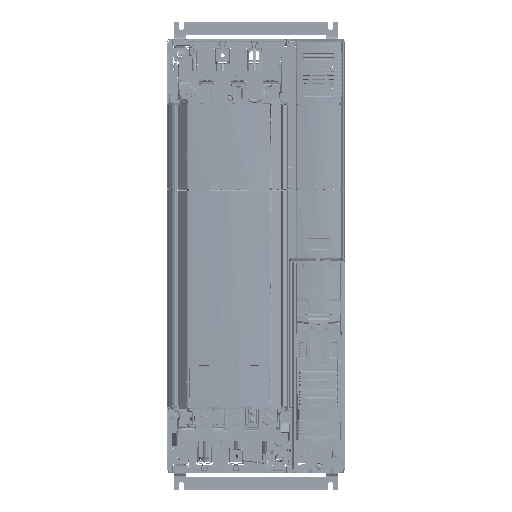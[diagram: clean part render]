
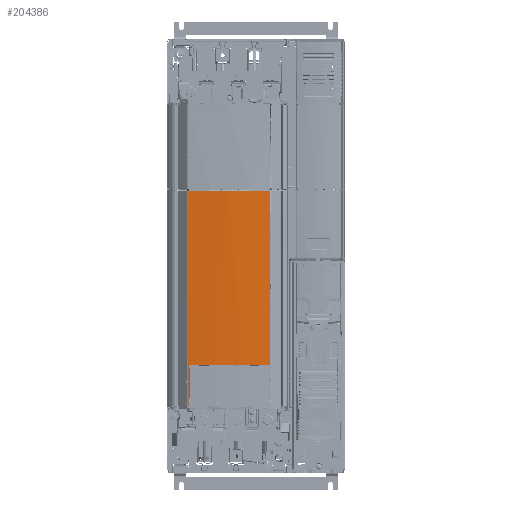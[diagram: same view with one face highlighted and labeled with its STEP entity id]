
A CAD part, top view. The second image highlights one B-rep face of the part: STEP entity #204386.
In plain terms, the highlighted cylindrical face has radius 800 mm (diameter 1600 mm), a partial arc.
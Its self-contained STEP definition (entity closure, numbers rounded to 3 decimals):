
#186227=CARTESIAN_POINT('',(-117.371,228.173,
210.333));
#186228=CARTESIAN_POINT('',(-101.611,228.149,
211.739));
#186229=CARTESIAN_POINT('',(-70.007,228.116,213.617));
#186230=CARTESIAN_POINT('',(-22.503,228.116,
213.617));
#186231=CARTESIAN_POINT('',(9.101,228.149,
211.739));
#186232=CARTESIAN_POINT('',(24.861,228.173,
210.333));
#186234=DIRECTION('',(0.,-1.,0.));
#186235=VECTOR('',#186234,373.338);
#186236=CARTESIAN_POINT('',(24.861,228.173,
210.333));
#186237=LINE('',#186236,#186235);
#186238=CARTESIAN_POINT('',(24.861,-145.165,
210.333));
#186239=CARTESIAN_POINT('',(24.691,-145.165,
210.348));
#186240=CARTESIAN_POINT('',(24.352,-145.164,
210.378));
#186241=CARTESIAN_POINT('',(24.015,-145.163,
210.408));
#186242=CARTESIAN_POINT('',(23.846,-145.163,
210.423));
#186244=DIRECTION('',(0.,1.,0.));
#186245=VECTOR('',#186244,69.374);
#186246=CARTESIAN_POINT('',(23.846,-145.163,
210.423));
#186247=LINE('',#186246,#186245);
#186248=CARTESIAN_POINT('',(23.846,-75.79,
210.423));
#186249=CARTESIAN_POINT('',(23.846,-75.692,
210.423));
#186250=CARTESIAN_POINT('',(23.833,-75.495,
210.424));
#186251=CARTESIAN_POINT('',(23.773,-75.199,
210.429));
#186252=CARTESIAN_POINT('',(23.667,-74.897,
210.438));
#186253=CARTESIAN_POINT('',(23.505,-74.593,
210.453));
#186254=CARTESIAN_POINT('',(23.277,-74.293,
210.473));
#186255=CARTESIAN_POINT('',(22.97,-74.013,
210.499));
#186256=CARTESIAN_POINT('',(22.583,-73.778,
210.533));
#186257=CARTESIAN_POINT('',(22.129,-73.623,
210.572));
#186258=CARTESIAN_POINT('',(21.811,-73.587,
210.599));
#186259=CARTESIAN_POINT('',(21.646,-73.587,
210.613));
#186261=CARTESIAN_POINT('',(-46.255,-73.587,-586.5));
#186262=DIRECTION('',(0.,-1.,0.));
#186263=DIRECTION('',(0.085,0.,0.996));
#186264=AXIS2_PLACEMENT_3D('',#186261,#186262,#186263);
#186266=CARTESIAN_POINT('',(-114.156,-73.587,
210.613));
#186267=CARTESIAN_POINT('',(-114.254,-73.587,
210.605));
#186268=CARTESIAN_POINT('',(-114.45,-73.6,
210.588));
#186269=CARTESIAN_POINT('',(-114.746,-73.66,
210.563));
#186270=CARTESIAN_POINT('',(-115.048,-73.767,
210.537));
#186271=CARTESIAN_POINT('',(-115.352,-73.929,
210.51));
#186272=CARTESIAN_POINT('',(-115.651,-74.157,
210.484));
#186273=CARTESIAN_POINT('',(-115.931,-74.464,
210.46));
#186274=CARTESIAN_POINT('',(-116.166,-74.852,
210.439));
#186275=CARTESIAN_POINT('',(-116.321,-75.306,
210.426));
#186276=CARTESIAN_POINT('',(-116.357,-75.624,
210.423));
#186277=CARTESIAN_POINT('',(-116.357,-75.79,
210.423));
#186279=DIRECTION('',(0.,-1.,0.));
#186280=VECTOR('',#186279,69.374);
#186281=CARTESIAN_POINT('',(-116.357,-75.79,
210.423));
#186282=LINE('',#186281,#186280);
#186283=CARTESIAN_POINT('',(-116.357,-145.164,
210.423));
#186284=CARTESIAN_POINT('',(-116.526,-145.164,
210.408));
#186285=CARTESIAN_POINT('',(-116.864,-145.164,
210.378));
#186286=CARTESIAN_POINT('',(-117.202,-145.165,
210.348));
#186287=CARTESIAN_POINT('',(-117.371,-145.165,
210.333));
#186289=DIRECTION('',(0.,1.,0.));
#186290=VECTOR('',#186289,373.338);
#186291=CARTESIAN_POINT('',(-117.371,-145.165,
210.333));
#186292=LINE('',#186291,#186290);
#201200=CARTESIAN_POINT('',(-116.357,-75.79,
210.423));
#201201=CARTESIAN_POINT('',(-116.357,-145.164,
210.423));
#201202=VERTEX_POINT('',#201200);
#201203=VERTEX_POINT('',#201201);
#201204=VERTEX_POINT('',#186266);
#201205=CARTESIAN_POINT('',(21.646,-73.587,
210.613));
#201206=VERTEX_POINT('',#201205);
#201207=VERTEX_POINT('',#186248);
#201212=CARTESIAN_POINT('',(23.846,-145.163,
210.423));
#201213=VERTEX_POINT('',#201212);
#201219=VERTEX_POINT('',#186238);
#201220=VERTEX_POINT('',#186287);
#201493=VERTEX_POINT('',#186227);
#201494=VERTEX_POINT('',#186232);
#204359=CARTESIAN_POINT('',(-46.255,-249.905,-586.5));
#204360=DIRECTION('',(0.,-1.,0.));
#204361=DIRECTION('',(1.,0.,0.));
#204362=AXIS2_PLACEMENT_3D('',#204359,#204360,#204361);
#204363=CYLINDRICAL_SURFACE('',#204362,800.);
#204365=ORIENTED_EDGE('',*,*,#204364,.T.);
#204367=ORIENTED_EDGE('',*,*,#204366,.T.);
#204369=ORIENTED_EDGE('',*,*,#204368,.T.);
#204371=ORIENTED_EDGE('',*,*,#204370,.T.);
#204373=ORIENTED_EDGE('',*,*,#204372,.T.);
#204375=ORIENTED_EDGE('',*,*,#204374,.T.);
#204377=ORIENTED_EDGE('',*,*,#204376,.T.);
#204379=ORIENTED_EDGE('',*,*,#204378,.T.);
#204381=ORIENTED_EDGE('',*,*,#204380,.T.);
#204383=ORIENTED_EDGE('',*,*,#204382,.T.);
#204384=EDGE_LOOP('',(#204365,#204367,#204369,#204371,#204373,#204375,#204377,
#204379,#204381,#204383));
#204385=FACE_OUTER_BOUND('',#204384,.F.);
#204386=ADVANCED_FACE('',(#204385),#204363,.T.);
#186233=B_SPLINE_CURVE_WITH_KNOTS('',3,(#186227,#186228,#186229,#186230,#186231,
#186232),.UNSPECIFIED.,.F.,.F.,(4,1,1,4),(0.,0.333,
0.667,1.),.UNSPECIFIED.);
#186243=B_SPLINE_CURVE_WITH_KNOTS('',3,(#186238,#186239,#186240,#186241,
#186242),.UNSPECIFIED.,.F.,.F.,(4,1,4),(0.,0.5,1.),.UNSPECIFIED.);
#186260=B_SPLINE_CURVE_WITH_KNOTS('',3,(#186248,#186249,#186250,#186251,#186252,
#186253,#186254,#186255,#186256,#186257,#186258,#186259),.UNSPECIFIED.,.F.,.F.,(
4,1,1,1,1,1,1,1,1,4),(0.,0.111,0.222,
0.333,0.444,0.556,0.667,
0.778,0.889,1.),.UNSPECIFIED.);
#186265=CIRCLE('',#186264,800.);
#186278=B_SPLINE_CURVE_WITH_KNOTS('',3,(#186266,#186267,#186268,#186269,#186270,
#186271,#186272,#186273,#186274,#186275,#186276,#186277),.UNSPECIFIED.,.F.,.F.,(
4,1,1,1,1,1,1,1,1,4),(0.,0.111,0.222,
0.333,0.444,0.556,0.667,
0.778,0.889,1.),.UNSPECIFIED.);
#186288=B_SPLINE_CURVE_WITH_KNOTS('',3,(#186283,#186284,#186285,#186286,
#186287),.UNSPECIFIED.,.F.,.F.,(4,1,4),(0.,0.5,1.),.UNSPECIFIED.);
#204364=EDGE_CURVE('',#201493,#201494,#186233,.T.);
#204366=EDGE_CURVE('',#201494,#201219,#186237,.T.);
#204368=EDGE_CURVE('',#201219,#201213,#186243,.T.);
#204370=EDGE_CURVE('',#201213,#201207,#186247,.T.);
#204372=EDGE_CURVE('',#201207,#201206,#186260,.T.);
#204374=EDGE_CURVE('',#201206,#201204,#186265,.T.);
#204376=EDGE_CURVE('',#201204,#201202,#186278,.T.);
#204378=EDGE_CURVE('',#201202,#201203,#186282,.T.);
#204380=EDGE_CURVE('',#201203,#201220,#186288,.T.);
#204382=EDGE_CURVE('',#201220,#201493,#186292,.T.);
